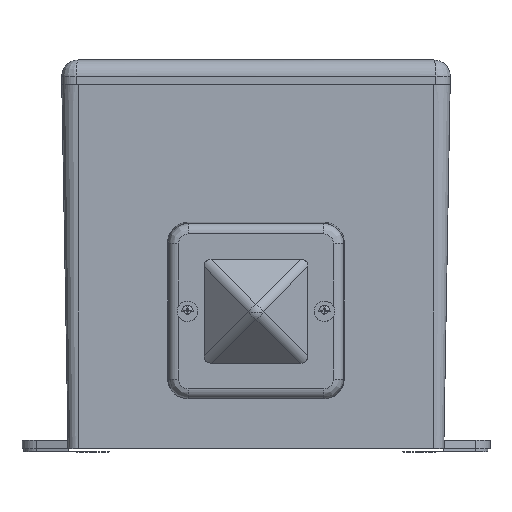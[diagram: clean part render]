
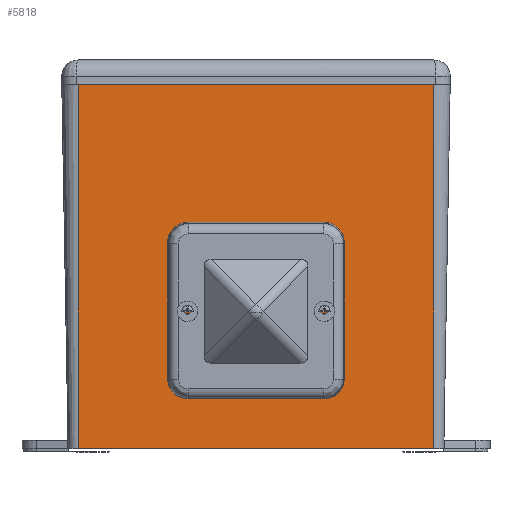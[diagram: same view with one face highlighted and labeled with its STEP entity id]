
A CAD part, top view. The second image highlights one B-rep face of the part: STEP entity #5818.
In plain terms, the highlighted planar face has unit normal (0, -0.018, 1).
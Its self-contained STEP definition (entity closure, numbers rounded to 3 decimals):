
#4762=DIRECTION('',(0.,-1.,-0.017));
#4763=VECTOR('',#4762,178.027);
#4764=CARTESIAN_POINT('',(167.79,-24.347,94.423));
#4765=LINE('',#4764,#4763);
#4766=DIRECTION('',(1.,0.,0.));
#4767=VECTOR('',#4766,174.);
#4768=CARTESIAN_POINT('',(-6.21,-24.347,
94.423));
#4769=LINE('',#4768,#4767);
#4770=DIRECTION('',(1.,0.,0.));
#4771=VECTOR('',#4770,174.);
#4772=CARTESIAN_POINT('',(-6.21,-202.347,
91.316));
#4773=LINE('',#4772,#4771);
#4774=CARTESIAN_POINT('',(80.79,-134.357,92.502));
#4775=DIRECTION('',(0.,-0.017,1.));
#4776=DIRECTION('',(0.,-1.,-0.017));
#4777=AXIS2_PLACEMENT_3D('',#4774,#4775,#4776);
#4779=CARTESIAN_POINT('',(80.79,-134.357,92.502));
#4780=DIRECTION('',(0.,-0.017,1.));
#4781=DIRECTION('',(0.,1.,0.017));
#4782=AXIS2_PLACEMENT_3D('',#4779,#4780,#4781);
#4789=DIRECTION('',(0.,1.,0.017));
#4790=VECTOR('',#4789,178.027);
#4791=CARTESIAN_POINT('',(-6.21,-202.347,
91.316));
#4792=LINE('',#4791,#4790);
#5282=CARTESIAN_POINT('',(80.79,-144.856,92.319));
#5283=CARTESIAN_POINT('',(80.79,-123.859,92.686));
#5284=VERTEX_POINT('',#5282);
#5285=VERTEX_POINT('',#5283);
#5452=CARTESIAN_POINT('',(167.79,-202.347,91.316));
#5453=VERTEX_POINT('',#5452);
#5454=CARTESIAN_POINT('',(-6.21,-202.347,
91.316));
#5455=VERTEX_POINT('',#5454);
#5488=CARTESIAN_POINT('',(167.79,-24.347,94.423));
#5489=VERTEX_POINT('',#5488);
#5490=CARTESIAN_POINT('',(-6.21,-24.347,
94.423));
#5491=VERTEX_POINT('',#5490);
#5799=CARTESIAN_POINT('',(-6.21,-24.347,
94.423));
#5800=DIRECTION('',(0.,-0.017,1.));
#5801=DIRECTION('',(0.,-1.,-0.017));
#5802=AXIS2_PLACEMENT_3D('',#5799,#5800,#5801);
#5803=PLANE('',#5802);
#5805=ORIENTED_EDGE('',*,*,#5804,.T.);
#5806=ORIENTED_EDGE('',*,*,#5794,.T.);
#5807=ORIENTED_EDGE('',*,*,#5642,.F.);
#5809=ORIENTED_EDGE('',*,*,#5808,.T.);
#5810=EDGE_LOOP('',(#5805,#5806,#5807,#5809));
#5811=FACE_OUTER_BOUND('',#5810,.F.);
#5813=ORIENTED_EDGE('',*,*,#5812,.T.);
#5815=ORIENTED_EDGE('',*,*,#5814,.T.);
#5816=EDGE_LOOP('',(#5813,#5815));
#5817=FACE_BOUND('',#5816,.F.);
#5818=ADVANCED_FACE('',(#5811,#5817),#5803,.T.);
#4778=CIRCLE('',#4777,10.5);
#4783=CIRCLE('',#4782,10.5);
#5642=EDGE_CURVE('',#5455,#5453,#4773,.T.);
#5794=EDGE_CURVE('',#5489,#5453,#4765,.T.);
#5804=EDGE_CURVE('',#5491,#5489,#4769,.T.);
#5808=EDGE_CURVE('',#5455,#5491,#4792,.T.);
#5812=EDGE_CURVE('',#5284,#5285,#4778,.T.);
#5814=EDGE_CURVE('',#5285,#5284,#4783,.T.);
